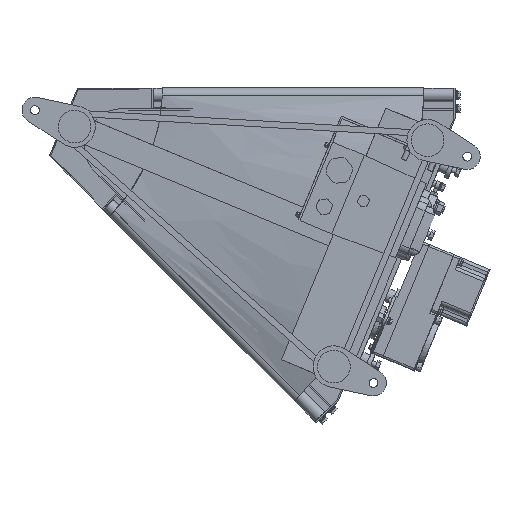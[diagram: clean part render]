
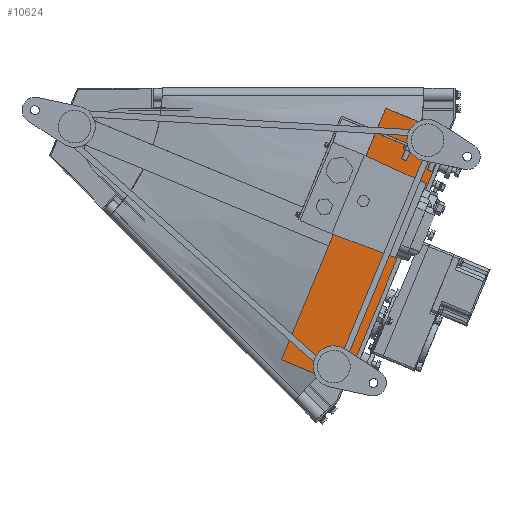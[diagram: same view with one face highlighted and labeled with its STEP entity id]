
A CAD part, front view. The second image highlights one B-rep face of the part: STEP entity #10624.
In plain terms, the highlighted planar face has unit normal (0, -1, 0).
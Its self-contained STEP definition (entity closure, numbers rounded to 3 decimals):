
#709 = AXIS2_PLACEMENT_3D ( 'NONE', #34131, #20285, #46568 ) ;
#1146 = CARTESIAN_POINT ( 'NONE',  ( 522.916, -167.5, -433.077 ) ) ;
#1569 = ORIENTED_EDGE ( 'NONE', *, *, #38856, .F. ) ;
#1807 = VERTEX_POINT ( 'NONE', #42248 ) ;
#1855 = CARTESIAN_POINT ( 'NONE',  ( 535.982, -167.5, -427.665 ) ) ;
#3015 = VECTOR ( 'NONE', #55149, 1000. ) ;
#3329 = LINE ( 'NONE', #31289, #54790 ) ;
#3620 = VERTEX_POINT ( 'NONE', #21122 ) ;
#4253 = CARTESIAN_POINT ( 'NONE',  ( 592.84, -167.5, -29.084 ) ) ;
#5643 = LINE ( 'NONE', #54052, #11191 ) ;
#6540 = DIRECTION ( 'NONE',  ( -0.924, 0., 0.383 ) ) ;
#6549 = DIRECTION ( 'NONE',  ( -0.383, 0., -0.924 ) ) ;
#8858 = VECTOR ( 'NONE', #6549, 1000. ) ;
#9667 = VERTEX_POINT ( 'NONE', #30314 ) ;
#9678 = EDGE_LOOP ( 'NONE', ( #33709, #55832, #51987, #31586, #52429, #1569 ) ) ;
#10624 = ADVANCED_FACE ( 'NONE', ( #49388 ), #51378, .F. ) ;
#11191 = VECTOR ( 'NONE', #32337, 1000. ) ;
#11591 = CARTESIAN_POINT ( 'NONE',  ( 592.84, -167.5, -29.084 ) ) ;
#14294 = CARTESIAN_POINT ( 'NONE',  ( 675.99, -167.5, -63.526 ) ) ;
#16673 = VERTEX_POINT ( 'NONE', #40391 ) ;
#18518 = EDGE_CURVE ( 'NONE', #23967, #32258, #35808, .T. ) ;
#18744 = VECTOR ( 'NONE', #49442, 1000. ) ;
#20285 = DIRECTION ( 'NONE',  ( 0., 1., 0. ) ) ;
#21122 = CARTESIAN_POINT ( 'NONE',  ( 535.982, -167.5, -427.665 ) ) ;
#23967 = VERTEX_POINT ( 'NONE', #4253 ) ;
#27136 = VECTOR ( 'NONE', #6540, 1000. ) ;
#30314 = CARTESIAN_POINT ( 'NONE',  ( 681.402, -167.5, -76.591 ) ) ;
#31101 = DIRECTION ( 'NONE',  ( 0.383, 0., -0.924 ) ) ;
#31289 = CARTESIAN_POINT ( 'NONE',  ( 681.402, -167.5, -76.591 ) ) ;
#31586 = ORIENTED_EDGE ( 'NONE', *, *, #48865, .F. ) ;
#32258 = VERTEX_POINT ( 'NONE', #14294 ) ;
#32337 = DIRECTION ( 'NONE',  ( 0.383, 0., 0.924 ) ) ;
#33709 = ORIENTED_EDGE ( 'NONE', *, *, #49888, .F. ) ;
#33968 = LINE ( 'NONE', #1855, #8858 ) ;
#34131 = CARTESIAN_POINT ( 'NONE',  ( 83.928, -167.5, -34.764 ) ) ;
#35808 = LINE ( 'NONE', #11591, #3015 ) ;
#38856 = EDGE_CURVE ( 'NONE', #9667, #3620, #33968, .T. ) ;
#40391 = CARTESIAN_POINT ( 'NONE',  ( 439.767, -167.5, -398.636 ) ) ;
#42248 = CARTESIAN_POINT ( 'NONE',  ( 522.916, -167.5, -433.077 ) ) ;
#44512 = EDGE_CURVE ( 'NONE', #3620, #1807, #48710, .T. ) ;
#46568 = DIRECTION ( 'NONE',  ( 0.078, 0., 0.997 ) ) ;
#48710 = LINE ( 'NONE', #1146, #18744 ) ;
#48865 = EDGE_CURVE ( 'NONE', #1807, #16673, #49425, .T. ) ;
#49388 = FACE_OUTER_BOUND ( 'NONE', #9678, .T. ) ;
#49425 = LINE ( 'NONE', #51072, #27136 ) ;
#49442 = DIRECTION ( 'NONE',  ( -0.924, 0., -0.383 ) ) ;
#49888 = EDGE_CURVE ( 'NONE', #32258, #9667, #3329, .T. ) ;
#50464 = EDGE_CURVE ( 'NONE', #16673, #23967, #5643, .T. ) ;
#51072 = CARTESIAN_POINT ( 'NONE',  ( 439.767, -167.5, -398.636 ) ) ;
#51378 = PLANE ( 'NONE',  #709 ) ;
#51987 = ORIENTED_EDGE ( 'NONE', *, *, #50464, .F. ) ;
#52429 = ORIENTED_EDGE ( 'NONE', *, *, #44512, .F. ) ;
#54052 = CARTESIAN_POINT ( 'NONE',  ( 439.767, -167.5, -398.636 ) ) ;
#54790 = VECTOR ( 'NONE', #31101, 1000. ) ;
#55149 = DIRECTION ( 'NONE',  ( 0.924, 0., -0.383 ) ) ;
#55832 = ORIENTED_EDGE ( 'NONE', *, *, #18518, .F. ) ;
